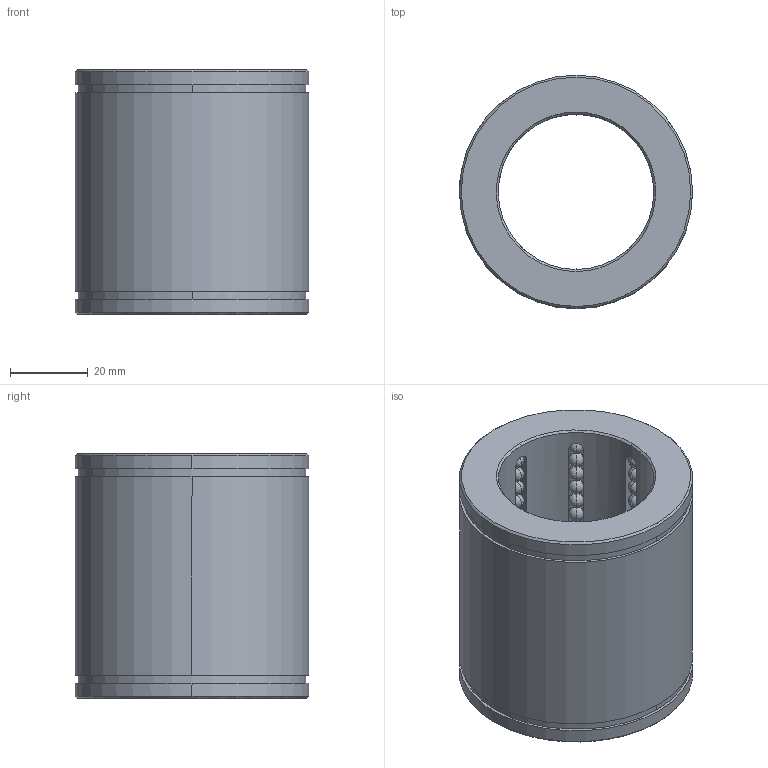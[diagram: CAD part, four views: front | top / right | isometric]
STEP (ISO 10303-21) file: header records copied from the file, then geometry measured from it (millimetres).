
FILE_DESCRIPTION(('CATIA V5 STEP Exchange'),'2;1');
FILE_NAME('C:\Users\Raffaele\Desktop\3D BOLEX\3D FILES CF BOLEX\3-BUSH REF 803\B8034063.stp','2019-06-19T14:05:49+00:00',('none'),('none'),'CATIA Version 5 Release 20 GA (IN-10)','CATIA V5 STEP AP203','none');
FILE_SCHEMA(('CONFIG_CONTROL_DESIGN'));
Length unit declared in the file: millimetre
Products named in the file (1): B8034063
Bounding box: 60 x 60 x 63 mm (x, y, z)
Volume: 95091.8 mm3; surface area: 32093 mm2
Topology: 105 solids, 105 shells, 490 faces, 1426 edges, 324 vertices
Faces by surface type: sphere 416, plane 30, cylinder 28, cone 16
Entity records: 9440 total; most frequent: CARTESIAN_POINT 1921, DIRECTION 1534, ORIENTED_EDGE 1188, AXIS2_PLACEMENT_3D 951, EDGE_CURVE 594, EDGE_LOOP 502, ADVANCED_FACE 490, FACE_OUTER_BOUND 490
